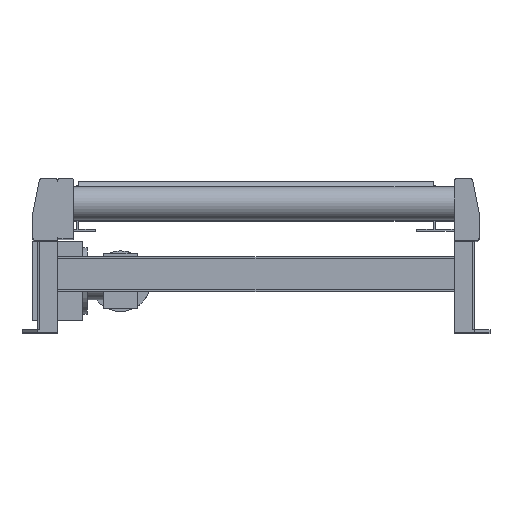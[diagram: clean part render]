
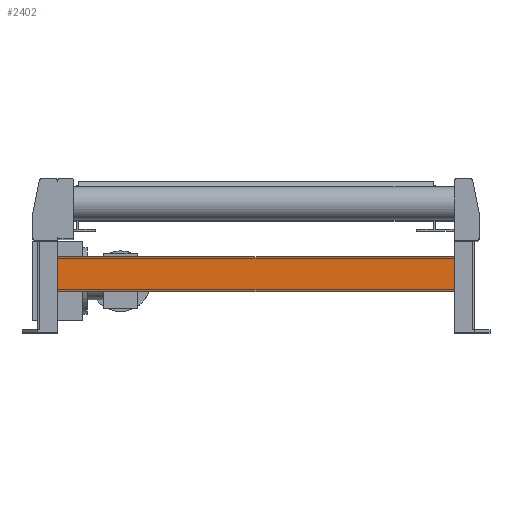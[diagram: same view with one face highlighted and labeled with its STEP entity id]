
A CAD part, top view. The second image highlights one B-rep face of the part: STEP entity #2402.
In plain terms, the highlighted planar face has unit normal (0, 0, 1).
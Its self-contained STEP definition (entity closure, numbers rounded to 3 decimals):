
#2277=CARTESIAN_POINT('',(-475.,-37.,-185.));
#2278=VERTEX_POINT('',#2277);
#2279=CARTESIAN_POINT('',(-475.,-120.0,-185.));
#2280=VERTEX_POINT('',#2279);
#2281=CARTESIAN_POINT('',(-475.,-37.,-185.));
#2282=DIRECTION('',(0.0,-1.0,0.0));
#2283=VECTOR('',#2282,83.0);
#2284=LINE('',#2281,#2283);
#2285=EDGE_CURVE('',#2278,#2280,#2284,.T.);
#2372=CARTESIAN_POINT('',(475.,-120.0,-185.));
#2373=DIRECTION('',(0.0,0.0,1.0));
#2374=DIRECTION('',(0.0,1.0,0.0));
#2375=AXIS2_PLACEMENT_3D('',#2372,#2373,#2374);
#2376=PLANE('',#2375);
#2377=CARTESIAN_POINT('',(475.,-37.,-185.));
#2378=VERTEX_POINT('',#2377);
#2379=CARTESIAN_POINT('',(475.,-120.0,-185.));
#2380=VERTEX_POINT('',#2379);
#2381=CARTESIAN_POINT('',(475.,-37.,-185.));
#2382=DIRECTION('',(0.0,-1.0,0.0));
#2383=VECTOR('',#2382,83.0);
#2384=LINE('',#2381,#2383);
#2385=EDGE_CURVE('',#2378,#2380,#2384,.T.);
#2386=ORIENTED_EDGE('',*,*,#2385,.F.);
#2387=CARTESIAN_POINT('',(475.,-37.,-185.));
#2388=DIRECTION('',(-1.0,0.0,0.0));
#2389=VECTOR('',#2388,950.0);
#2390=LINE('',#2387,#2389);
#2391=EDGE_CURVE('',#2378,#2278,#2390,.T.);
#2392=ORIENTED_EDGE('',*,*,#2391,.T.);
#2393=ORIENTED_EDGE('',*,*,#2285,.T.);
#2394=CARTESIAN_POINT('',(475.,-120.0,-185.));
#2395=DIRECTION('',(-1.0,0.0,0.0));
#2396=VECTOR('',#2395,950.0);
#2397=LINE('',#2394,#2396);
#2398=EDGE_CURVE('',#2380,#2280,#2397,.T.);
#2399=ORIENTED_EDGE('',*,*,#2398,.F.);
#2400=EDGE_LOOP('',(#2386,#2392,#2393,#2399));
#2401=FACE_OUTER_BOUND('',#2400,.T.);
#2402=ADVANCED_FACE('',(#2401),#2376,.T.);
